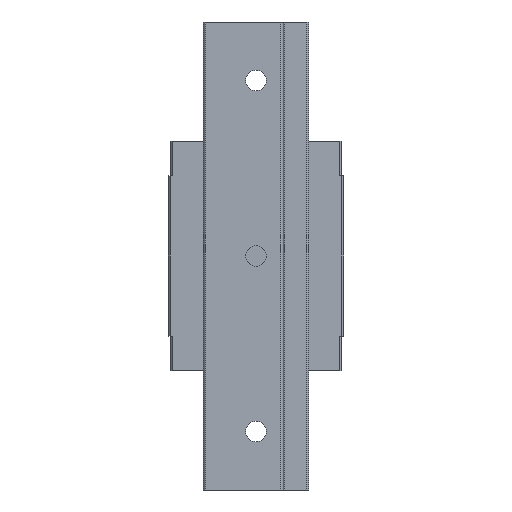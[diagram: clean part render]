
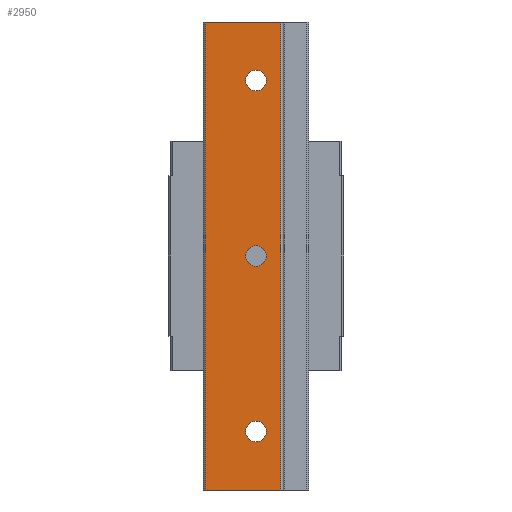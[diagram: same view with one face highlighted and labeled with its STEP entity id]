
A CAD part, front view. The second image highlights one B-rep face of the part: STEP entity #2950.
In plain terms, the highlighted planar face has unit normal (0, -1, 0).
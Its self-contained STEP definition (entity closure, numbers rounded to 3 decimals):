
#122 = CARTESIAN_POINT ( 'NONE',  ( 0., 0., 31.75 ) ) ;
#134 = EDGE_CURVE ( 'NONE', #5936, #3392, #7673, .T. ) ;
#161 = FACE_BOUND ( 'NONE', #5755, .T. ) ;
#425 = ORIENTED_EDGE ( 'NONE', *, *, #4437, .F. ) ;
#567 = DIRECTION ( 'NONE',  ( 0., 0., -1. ) ) ;
#1017 = PLANE ( 'NONE',  #6343 ) ;
#1223 = CARTESIAN_POINT ( 'NONE',  ( 0., 0., -1.75 ) ) ;
#1284 = ORIENTED_EDGE ( 'NONE', *, *, #7388, .F. ) ;
#1477 = VERTEX_POINT ( 'NONE', #1223 ) ;
#1529 = CARTESIAN_POINT ( 'NONE',  ( 0., 0., 30. ) ) ;
#1562 = ORIENTED_EDGE ( 'NONE', *, *, #4653, .F. ) ;
#1826 = ORIENTED_EDGE ( 'NONE', *, *, #7070, .F. ) ;
#1855 = DIRECTION ( 'NONE',  ( 0., 1., 0. ) ) ;
#1861 = VERTEX_POINT ( 'NONE', #122 ) ;
#2069 = EDGE_LOOP ( 'NONE', ( #6833, #10981, #4974, #1826 ) ) ;
#2096 = CIRCLE ( 'NONE', #11094, 1.75 ) ;
#2189 = EDGE_CURVE ( 'NONE', #3392, #5936, #6341, .T. ) ;
#2334 = CARTESIAN_POINT ( 'NONE',  ( -8.7, 0., 40. ) ) ;
#2647 = FACE_OUTER_BOUND ( 'NONE', #2069, .T. ) ;
#2701 = DIRECTION ( 'NONE',  ( 0., -1., 0. ) ) ;
#2950 = ADVANCED_FACE ( 'NONE', ( #9697, #6225, #161, #2647 ), #1017, .F. ) ;
#3068 = DIRECTION ( 'NONE',  ( 0., -1., 0. ) ) ;
#3174 = DIRECTION ( 'NONE',  ( 0., 0., -1. ) ) ;
#3237 = DIRECTION ( 'NONE',  ( 0., 0., -1. ) ) ;
#3280 = DIRECTION ( 'NONE',  ( 0., 0., -1. ) ) ;
#3392 = VERTEX_POINT ( 'NONE', #6072 ) ;
#3476 = VECTOR ( 'NONE', #6630, 1000. ) ;
#3553 = LINE ( 'NONE', #6989, #7132 ) ;
#3681 = DIRECTION ( 'NONE',  ( 1., 0., 0. ) ) ;
#3792 = CARTESIAN_POINT ( 'NONE',  ( 0., 0., -30. ) ) ;
#3970 = LINE ( 'NONE', #7499, #7064 ) ;
#3975 = CIRCLE ( 'NONE', #5064, 1.75 ) ;
#4078 = EDGE_CURVE ( 'NONE', #7278, #7462, #3553, .T. ) ;
#4437 = EDGE_CURVE ( 'NONE', #1477, #6682, #3975, .T. ) ;
#4653 = EDGE_CURVE ( 'NONE', #10137, #1861, #9170, .T. ) ;
#4974 = ORIENTED_EDGE ( 'NONE', *, *, #7744, .F. ) ;
#5058 = DIRECTION ( 'NONE',  ( 0., -1., 0. ) ) ;
#5064 = AXIS2_PLACEMENT_3D ( 'NONE', #7519, #3068, #3237 ) ;
#5305 = CARTESIAN_POINT ( 'NONE',  ( 4.2, 0., 40. ) ) ;
#5429 = ORIENTED_EDGE ( 'NONE', *, *, #8905, .F. ) ;
#5454 = VECTOR ( 'NONE', #3280, 1000. ) ;
#5491 = CARTESIAN_POINT ( 'NONE',  ( 0., 0., -31.75 ) ) ;
#5755 = EDGE_LOOP ( 'NONE', ( #10118, #7099 ) ) ;
#5769 = AXIS2_PLACEMENT_3D ( 'NONE', #1529, #9149, #567 ) ;
#5864 = EDGE_CURVE ( 'NONE', #6966, #7462, #3970, .T. ) ;
#5936 = VERTEX_POINT ( 'NONE', #5491 ) ;
#6048 = DIRECTION ( 'NONE',  ( 0., -1., 0. ) ) ;
#6072 = CARTESIAN_POINT ( 'NONE',  ( 0., 0., -28.25 ) ) ;
#6160 = CARTESIAN_POINT ( 'NONE',  ( -9., 0., 40. ) ) ;
#6177 = CIRCLE ( 'NONE', #8874, 1.75 ) ;
#6224 = DIRECTION ( 'NONE',  ( 0., 0., -1. ) ) ;
#6225 = FACE_BOUND ( 'NONE', #8892, .T. ) ;
#6292 = CARTESIAN_POINT ( 'NONE',  ( 4.2, 0., -40. ) ) ;
#6307 = DIRECTION ( 'NONE',  ( 0., 0., -1. ) ) ;
#6341 = CIRCLE ( 'NONE', #10464, 1.75 ) ;
#6343 = AXIS2_PLACEMENT_3D ( 'NONE', #6160, #1855, #3681 ) ;
#6630 = DIRECTION ( 'NONE',  ( -1., 0., 0. ) ) ;
#6682 = VERTEX_POINT ( 'NONE', #7797 ) ;
#6833 = ORIENTED_EDGE ( 'NONE', *, *, #5864, .T. ) ;
#6966 = VERTEX_POINT ( 'NONE', #5305 ) ;
#6989 = CARTESIAN_POINT ( 'NONE',  ( -8.7, 0., 40. ) ) ;
#7064 = VECTOR ( 'NONE', #10938, 1000. ) ;
#7070 = EDGE_CURVE ( 'NONE', #6966, #7989, #10259, .T. ) ;
#7099 = ORIENTED_EDGE ( 'NONE', *, *, #2189, .F. ) ;
#7132 = VECTOR ( 'NONE', #10415, 1000. ) ;
#7278 = VERTEX_POINT ( 'NONE', #9478 ) ;
#7388 = EDGE_CURVE ( 'NONE', #1861, #10137, #6177, .T. ) ;
#7462 = VERTEX_POINT ( 'NONE', #2334 ) ;
#7499 = CARTESIAN_POINT ( 'NONE',  ( 4.5, 0., 40. ) ) ;
#7506 = CARTESIAN_POINT ( 'NONE',  ( 0., 0., 0. ) ) ;
#7519 = CARTESIAN_POINT ( 'NONE',  ( 0., 0., 0. ) ) ;
#7673 = CIRCLE ( 'NONE', #7858, 1.75 ) ;
#7696 = CARTESIAN_POINT ( 'NONE',  ( 4.5, 0., -40. ) ) ;
#7744 = EDGE_CURVE ( 'NONE', #7989, #7278, #9272, .T. ) ;
#7797 = CARTESIAN_POINT ( 'NONE',  ( 0., 0., 1.75 ) ) ;
#7858 = AXIS2_PLACEMENT_3D ( 'NONE', #9784, #6048, #6307 ) ;
#7989 = VERTEX_POINT ( 'NONE', #6292 ) ;
#8450 = CARTESIAN_POINT ( 'NONE',  ( 0., 0., 30. ) ) ;
#8874 = AXIS2_PLACEMENT_3D ( 'NONE', #8450, #10176, #10289 ) ;
#8892 = EDGE_LOOP ( 'NONE', ( #425, #5429 ) ) ;
#8905 = EDGE_CURVE ( 'NONE', #6682, #1477, #2096, .T. ) ;
#9149 = DIRECTION ( 'NONE',  ( 0., -1., 0. ) ) ;
#9170 = CIRCLE ( 'NONE', #5769, 1.75 ) ;
#9272 = LINE ( 'NONE', #7696, #3476 ) ;
#9478 = CARTESIAN_POINT ( 'NONE',  ( -8.7, 0., -40. ) ) ;
#9571 = CARTESIAN_POINT ( 'NONE',  ( 0., 0., 28.25 ) ) ;
#9697 = FACE_BOUND ( 'NONE', #10683, .T. ) ;
#9784 = CARTESIAN_POINT ( 'NONE',  ( 0., 0., -30. ) ) ;
#10118 = ORIENTED_EDGE ( 'NONE', *, *, #134, .F. ) ;
#10137 = VERTEX_POINT ( 'NONE', #9571 ) ;
#10176 = DIRECTION ( 'NONE',  ( 0., -1., 0. ) ) ;
#10259 = LINE ( 'NONE', #10994, #5454 ) ;
#10289 = DIRECTION ( 'NONE',  ( 0., 0., -1. ) ) ;
#10415 = DIRECTION ( 'NONE',  ( 0., 0., 1. ) ) ;
#10464 = AXIS2_PLACEMENT_3D ( 'NONE', #3792, #2701, #6224 ) ;
#10683 = EDGE_LOOP ( 'NONE', ( #1562, #1284 ) ) ;
#10938 = DIRECTION ( 'NONE',  ( -1., 0., 0. ) ) ;
#10981 = ORIENTED_EDGE ( 'NONE', *, *, #4078, .F. ) ;
#10994 = CARTESIAN_POINT ( 'NONE',  ( 4.2, 0., 40. ) ) ;
#11094 = AXIS2_PLACEMENT_3D ( 'NONE', #7506, #5058, #3174 ) ;
